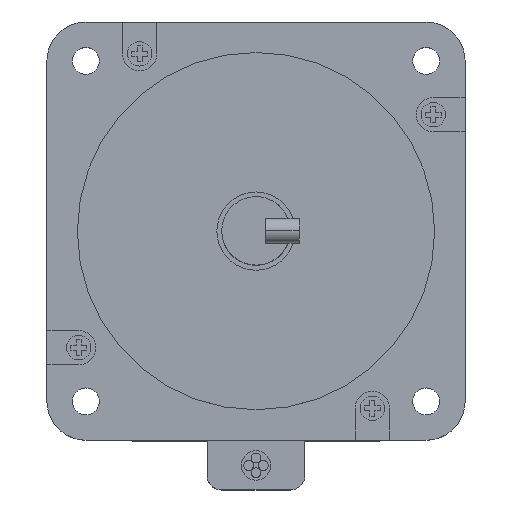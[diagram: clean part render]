
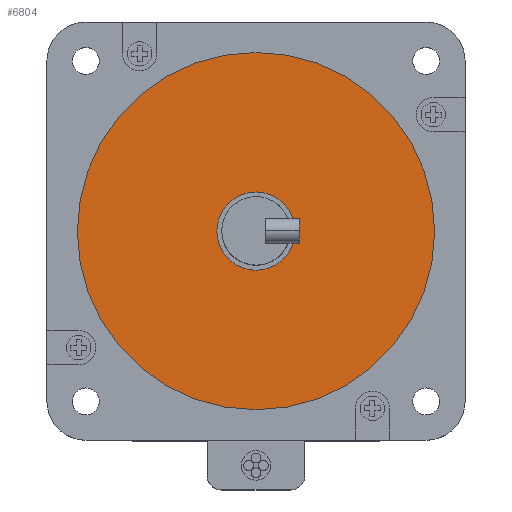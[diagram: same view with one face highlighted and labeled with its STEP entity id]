
A CAD part, top view. The second image highlights one B-rep face of the part: STEP entity #6804.
In plain terms, the highlighted planar face has unit normal (0, 0, 1).
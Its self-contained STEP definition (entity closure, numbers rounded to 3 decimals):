
#244 = DIRECTION ( 'NONE',  ( -1., 0., 0. ) ) ;
#318 = ORIENTED_EDGE ( 'NONE', *, *, #8711, .T. ) ;
#351 = DIRECTION ( 'NONE',  ( 1., 0., 0. ) ) ;
#359 = CARTESIAN_POINT ( 'NONE',  ( 8., 0., 2. ) ) ;
#640 = FACE_BOUND ( 'NONE', #3403, .T. ) ;
#664 = DIRECTION ( 'NONE',  ( -1., 0., 0. ) ) ;
#1597 = AXIS2_PLACEMENT_3D ( 'NONE', #2364, #2470, #351 ) ;
#2002 = CARTESIAN_POINT ( 'NONE',  ( 36.513, 0., 2. ) ) ;
#2089 = VERTEX_POINT ( 'NONE', #2002 ) ;
#2187 = ORIENTED_EDGE ( 'NONE', *, *, #6047, .T. ) ;
#2362 = CARTESIAN_POINT ( 'NONE',  ( 0., 0., 2. ) ) ;
#2364 = CARTESIAN_POINT ( 'NONE',  ( 0., 0., 2. ) ) ;
#2470 = DIRECTION ( 'NONE',  ( 0., 0., 1. ) ) ;
#2695 = CIRCLE ( 'NONE', #4646, 8. ) ;
#2796 = DIRECTION ( 'NONE',  ( 0., 0., -1. ) ) ;
#3197 = PLANE ( 'NONE',  #1597 ) ;
#3403 = EDGE_LOOP ( 'NONE', ( #2187, #7119 ) ) ;
#3521 = CIRCLE ( 'NONE', #6562, 36.513 ) ;
#3549 = AXIS2_PLACEMENT_3D ( 'NONE', #4905, #2796, #664 ) ;
#3638 = FACE_OUTER_BOUND ( 'NONE', #5508, .T. ) ;
#4178 = VERTEX_POINT ( 'NONE', #359 ) ;
#4458 = DIRECTION ( 'NONE',  ( 0., 0., 1. ) ) ;
#4570 = DIRECTION ( 'NONE',  ( 0., 0., -1. ) ) ;
#4646 = AXIS2_PLACEMENT_3D ( 'NONE', #2362, #4570, #7361 ) ;
#4905 = CARTESIAN_POINT ( 'NONE',  ( 0., 0., 2. ) ) ;
#5072 = VERTEX_POINT ( 'NONE', #7884 ) ;
#5128 = CARTESIAN_POINT ( 'NONE',  ( 0., 0., 2. ) ) ;
#5508 = EDGE_LOOP ( 'NONE', ( #6078, #318 ) ) ;
#5513 = DIRECTION ( 'NONE',  ( -1., 0., 0. ) ) ;
#5774 = CIRCLE ( 'NONE', #3549, 8. ) ;
#6025 = AXIS2_PLACEMENT_3D ( 'NONE', #6826, #7534, #5513 ) ;
#6047 = EDGE_CURVE ( 'NONE', #7626, #4178, #5774, .T. ) ;
#6078 = ORIENTED_EDGE ( 'NONE', *, *, #6722, .T. ) ;
#6562 = AXIS2_PLACEMENT_3D ( 'NONE', #5128, #4458, #244 ) ;
#6722 = EDGE_CURVE ( 'NONE', #5072, #2089, #3521, .T. ) ;
#6804 = ADVANCED_FACE ( 'NONE', ( #3638, #640 ), #3197, .T. ) ;
#6826 = CARTESIAN_POINT ( 'NONE',  ( 0., 0., 2. ) ) ;
#7119 = ORIENTED_EDGE ( 'NONE', *, *, #8507, .T. ) ;
#7361 = DIRECTION ( 'NONE',  ( -1., 0., 0. ) ) ;
#7534 = DIRECTION ( 'NONE',  ( 0., 0., 1. ) ) ;
#7626 = VERTEX_POINT ( 'NONE', #9121 ) ;
#7884 = CARTESIAN_POINT ( 'NONE',  ( -36.513, 0., 2. ) ) ;
#8507 = EDGE_CURVE ( 'NONE', #4178, #7626, #2695, .T. ) ;
#8711 = EDGE_CURVE ( 'NONE', #2089, #5072, #8736, .T. ) ;
#8736 = CIRCLE ( 'NONE', #6025, 36.513 ) ;
#9121 = CARTESIAN_POINT ( 'NONE',  ( -8., 0., 2. ) ) ;
